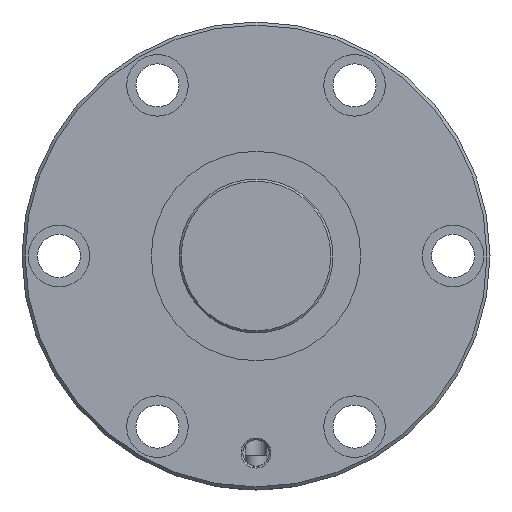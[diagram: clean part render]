
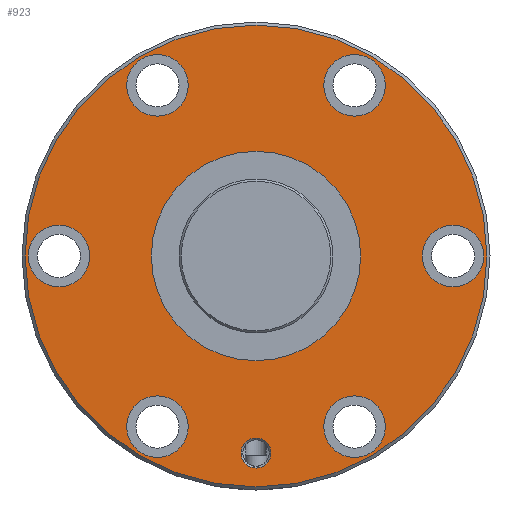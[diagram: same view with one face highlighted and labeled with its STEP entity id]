
A CAD part, left-side view. The second image highlights one B-rep face of the part: STEP entity #923.
In plain terms, the highlighted planar face has unit normal (-1, 0, 0).
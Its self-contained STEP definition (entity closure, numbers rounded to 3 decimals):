
#154=ORIENTED_EDGE('',*,*,#357,.T.);
#155=ORIENTED_EDGE('',*,*,#358,.T.);
#156=ORIENTED_EDGE('',*,*,#359,.T.);
#157=ORIENTED_EDGE('',*,*,#360,.T.);
#158=ORIENTED_EDGE('',*,*,#361,.T.);
#159=ORIENTED_EDGE('',*,*,#362,.T.);
#160=ORIENTED_EDGE('',*,*,#363,.T.);
#161=ORIENTED_EDGE('',*,*,#364,.T.);
#162=ORIENTED_EDGE('',*,*,#356,.F.);
#356=EDGE_CURVE('',#461,#461,#545,.T.);
#357=EDGE_CURVE('',#462,#462,#546,.T.);
#358=EDGE_CURVE('',#463,#463,#547,.F.);
#359=EDGE_CURVE('',#464,#464,#548,.T.);
#360=EDGE_CURVE('',#465,#465,#549,.T.);
#361=EDGE_CURVE('',#466,#466,#550,.T.);
#362=EDGE_CURVE('',#467,#467,#551,.T.);
#363=EDGE_CURVE('',#468,#468,#552,.T.);
#364=EDGE_CURVE('',#469,#469,#553,.T.);
#461=VERTEX_POINT('',#1555);
#462=VERTEX_POINT('',#1558);
#463=VERTEX_POINT('',#1560);
#464=VERTEX_POINT('',#1562);
#465=VERTEX_POINT('',#1564);
#466=VERTEX_POINT('',#1566);
#467=VERTEX_POINT('',#1568);
#468=VERTEX_POINT('',#1570);
#469=VERTEX_POINT('',#1572);
#545=CIRCLE('',#1030,75.);
#546=CIRCLE('',#1032,34.);
#547=CIRCLE('',#1033,10.);
#548=CIRCLE('',#1034,4.864);
#549=CIRCLE('',#1035,10.);
#550=CIRCLE('',#1036,10.);
#551=CIRCLE('',#1037,10.);
#552=CIRCLE('',#1038,10.);
#553=CIRCLE('',#1039,10.);
#626=EDGE_LOOP('',(#154));
#627=EDGE_LOOP('',(#155));
#628=EDGE_LOOP('',(#156));
#629=EDGE_LOOP('',(#157));
#630=EDGE_LOOP('',(#158));
#631=EDGE_LOOP('',(#159));
#632=EDGE_LOOP('',(#160));
#633=EDGE_LOOP('',(#161));
#634=EDGE_LOOP('',(#162));
#766=FACE_BOUND('',#626,.T.);
#767=FACE_BOUND('',#627,.T.);
#768=FACE_BOUND('',#628,.T.);
#769=FACE_BOUND('',#629,.T.);
#770=FACE_BOUND('',#630,.T.);
#771=FACE_BOUND('',#631,.T.);
#772=FACE_BOUND('',#632,.T.);
#773=FACE_BOUND('',#633,.T.);
#774=FACE_BOUND('',#634,.T.);
#888=PLANE('',#1031);
#923=ADVANCED_FACE('',(#766,#767,#768,#769,#770,#771,#772,#773,#774),#888,
 .T.);
#1030=AXIS2_PLACEMENT_3D('',#1554,#1198,#1199);
#1031=AXIS2_PLACEMENT_3D('',#1556,#1200,#1201);
#1032=AXIS2_PLACEMENT_3D('',#1557,#1202,#1203);
#1033=AXIS2_PLACEMENT_3D('',#1559,#1204,#1205);
#1034=AXIS2_PLACEMENT_3D('',#1561,#1206,#1207);
#1035=AXIS2_PLACEMENT_3D('',#1563,#1208,#1209);
#1036=AXIS2_PLACEMENT_3D('',#1565,#1210,#1211);
#1037=AXIS2_PLACEMENT_3D('',#1567,#1212,#1213);
#1038=AXIS2_PLACEMENT_3D('',#1569,#1214,#1215);
#1039=AXIS2_PLACEMENT_3D('',#1571,#1216,#1217);
#1198=DIRECTION('',(1.,0.,0.));
#1199=DIRECTION('',(0.,0.,-1.));
#1200=DIRECTION('',(-1.,0.,0.));
#1201=DIRECTION('',(0.,0.,1.));
#1202=DIRECTION('',(1.,0.,0.));
#1203=DIRECTION('',(0.,0.,-1.));
#1204=DIRECTION('',(-1.,0.,0.));
#1205=DIRECTION('',(0.,0.,1.));
#1206=DIRECTION('',(1.,0.,0.));
#1207=DIRECTION('',(0.,0.,-1.));
#1208=DIRECTION('',(1.,0.,0.));
#1209=DIRECTION('',(0.,0.,-1.));
#1210=DIRECTION('',(1.,0.,0.));
#1211=DIRECTION('',(0.,0.,-1.));
#1212=DIRECTION('',(1.,0.,0.));
#1213=DIRECTION('',(0.,0.,-1.));
#1214=DIRECTION('',(1.,0.,0.));
#1215=DIRECTION('',(0.,0.,-1.));
#1216=DIRECTION('',(1.,0.,0.));
#1217=DIRECTION('',(0.,0.,-1.));
#1554=CARTESIAN_POINT('',(0.,0.,0.));
#1555=CARTESIAN_POINT('',(0.,0.,-75.));
#1556=CARTESIAN_POINT('',(0.,75.,0.));
#1557=CARTESIAN_POINT('',(0.,0.,0.));
#1558=CARTESIAN_POINT('',(0.,0.,-34.));
#1559=CARTESIAN_POINT('',(0.,64.,0.));
#1560=CARTESIAN_POINT('',(0.,64.,10.));
#1561=CARTESIAN_POINT('',(0.,0.,-64.));
#1562=CARTESIAN_POINT('',(0.,0.,-68.864));
#1563=CARTESIAN_POINT('',(0.,-64.,0.));
#1564=CARTESIAN_POINT('',(0.,-64.,-10.));
#1565=CARTESIAN_POINT('',(0.,32.,55.426));
#1566=CARTESIAN_POINT('',(0.,32.,45.426));
#1567=CARTESIAN_POINT('',(0.,-32.,-55.426));
#1568=CARTESIAN_POINT('',(0.,-32.,-65.426));
#1569=CARTESIAN_POINT('',(0.,-32.,55.426));
#1570=CARTESIAN_POINT('',(0.,-32.,45.426));
#1571=CARTESIAN_POINT('',(0.,32.,-55.426));
#1572=CARTESIAN_POINT('',(0.,32.,-65.426));
